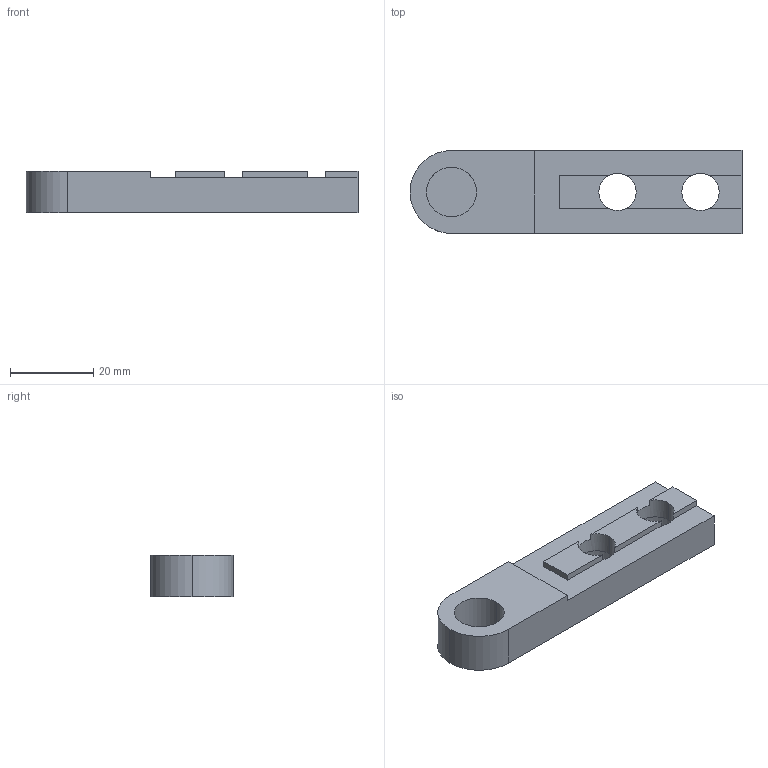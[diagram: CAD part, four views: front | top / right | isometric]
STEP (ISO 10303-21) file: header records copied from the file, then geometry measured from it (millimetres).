
FILE_DESCRIPTION (( 'STEP AP203' ), '1' );
FILE_NAME ('084.800.002.STEP', '2013-01-29T09:11:58', ( 'Alusic' ), ( 'Alusic' ), 'SwSTEP 2.0', 'SolidWorks 2011', '' );
FILE_SCHEMA (( 'CONFIG_CONTROL_DESIGN' ));
Length unit declared in the file: millimetre
Products named in the file (1): 084.800.002
Bounding box: 80 x 20 x 10 mm (x, y, z)
Volume: 11521.7 mm3; surface area: 5775.6 mm2
Topology: 1 solids, 1 shells, 32 faces, 87 edges, 58 vertices
Faces by surface type: plane 20, cylinder 12
Entity records: 1108 total; most frequent: DIRECTION 185, CARTESIAN_POINT 178, ORIENTED_EDGE 174, EDGE_CURVE 87, AXIS2_PLACEMENT_3D 65, VERTEX_POINT 58, LINE 55, VECTOR 55
